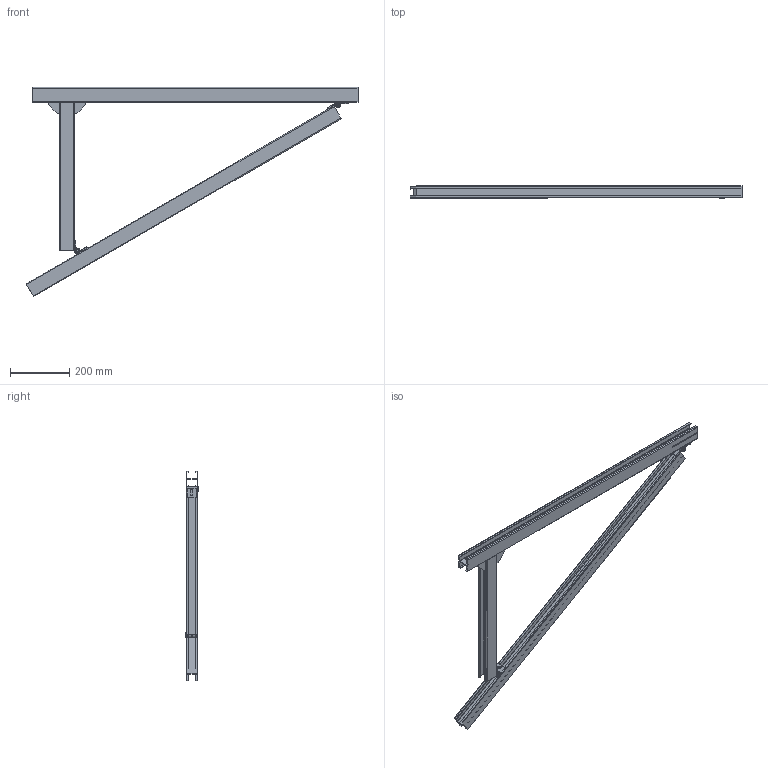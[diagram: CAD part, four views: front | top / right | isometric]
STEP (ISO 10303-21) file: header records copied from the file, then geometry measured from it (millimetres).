
FILE_DESCRIPTION (( 'STEP AP203' ), '1' );
FILE_NAME ('084.106.317.STEP', '2022-07-08T11:52:33', ( '' ), ( '' ), 'SwSTEP 2.0', 'SolidWorks 2021', '' );
FILE_SCHEMA (( 'CONFIG_CONTROL_DESIGN' ));
Length unit declared in the file: millimetre
Products named in the file (8): DADI ESAGONALI AUTOBLOCCANTI UNI 7473_M10 UNI 7434; 084.106.186; 084.301.000 VITI ALUSIC-2_084.301.038; 084.106.186A; 084.305.009; 084.106.317; 084.106.317_Default<A macchina>
Assembly tree (13 placements, depth 3):
  084.106.317
    084.106.317_Default<A macchina>
    084.305.009  x2
    084.106.186
      084.106.186A  x2
      084.301.000 VITI ALUSIC-2_084.301.038
      DADI ESAGONALI AUTOBLOCCANTI UNI 7473_M10 UNI 7434
    084.106.186
      084.106.186A  x2
      084.301.000 VITI ALUSIC-2_084.301.038
      DADI ESAGONALI AUTOBLOCCANTI UNI 7473_M10 UNI 7434
Bounding box: 1120.53 x 46 x 705.65 mm (x, y, z)
Volume: 998561.5 mm3; surface area: 959367.1 mm2
Topology: 13 solids, 13 shells, 442 faces, 1080 edges, 664 vertices
Faces by surface type: plane 194, cylinder 148, torus 60, cone 28, bspline 12
Entity records: 7845 total; most frequent: CARTESIAN_POINT 1404, DIRECTION 1178, ORIENTED_EDGE 1118, EDGE_CURVE 559, AXIS2_PLACEMENT_3D 414, VERTEX_POINT 356, VECTOR 350, LINE 350
